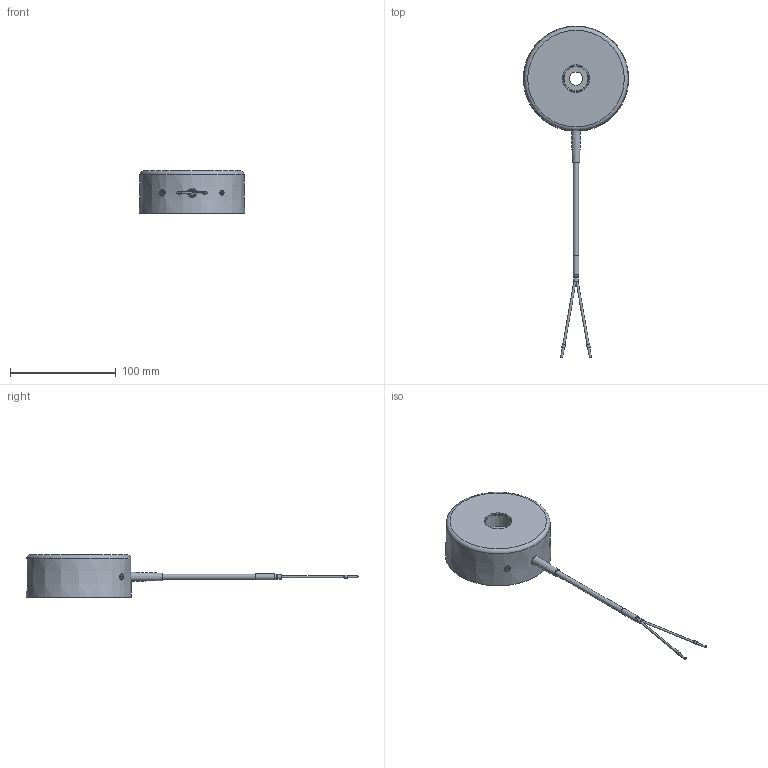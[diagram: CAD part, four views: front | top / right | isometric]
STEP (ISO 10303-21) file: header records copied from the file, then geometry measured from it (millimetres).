
FILE_DESCRIPTION( ( 'STEP AP203' ), '1' );
FILE_NAME( '//expscmdclustefs.cadenas.external/client_exchange/iodir/jobs/output/wkb81177190_no0/STEP/I12001_2_03.stp', ' ', ( ' ' ), ( ' ' ), 'PSStep 15.0.47', 'PARTsolutions', ' ' );
FILE_SCHEMA( ( 'CONFIG_CONTROL_DESIGN' ) );
Length unit declared in the file: millimetre
Products named in the file (1): _I12001
Bounding box: 99.6 x 313.69 x 40 mm (x, y, z)
Volume: 301034.7 mm3; surface area: 33019.3 mm2
Topology: 1 solids, 1 shells, 66 faces, 119 edges, 77 vertices
Faces by surface type: plane 31, cylinder 22, cone 7, torus 6
Full cylindrical faces by diameter (mm): 2 x4, 3 x6, 4 x1, 4.1 x1, 4.5 x2, 4.6 x1, 5 x1, 5.55 x1, 6 x1, 12.5 x1, 26 x1
Entity records: 1644 total; most frequent: CARTESIAN_POINT 407, DIRECTION 270, ORIENTED_EDGE 162, AXIS2_PLACEMENT_3D 125, EDGE_LOOP 123, FACE_OUTER_BOUND 92, EDGE_CURVE 81, VERTEX_POINT 72
